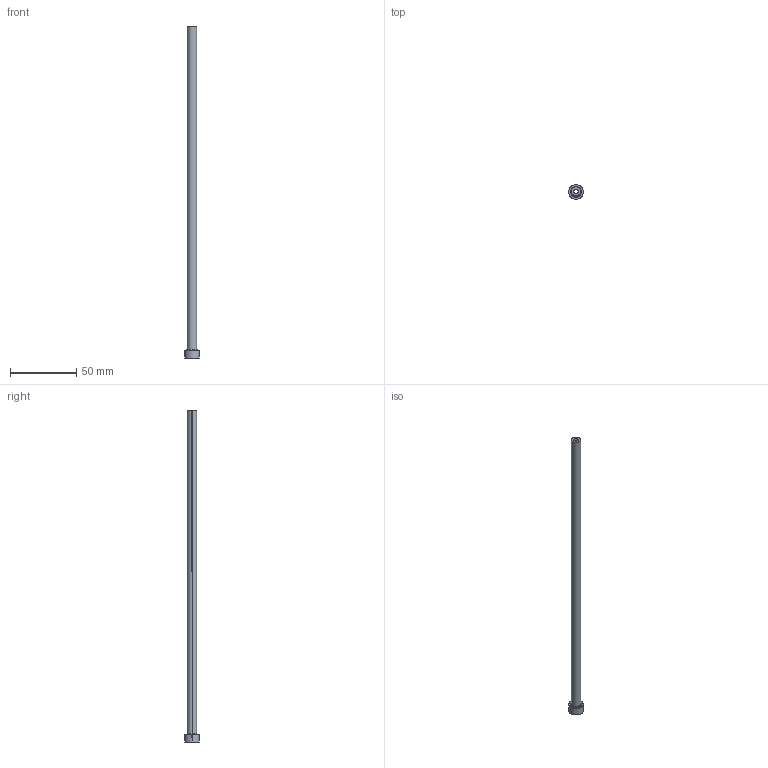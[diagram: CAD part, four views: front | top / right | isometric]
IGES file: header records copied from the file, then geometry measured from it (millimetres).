
Start section: SolidWorks IGES file using analytic representation for surfaces
Global section: file name: D:\Ref Drgs\JES Sleeve\25-45_250\JES-35-7-250\JES-35-7-250.IGS; native system: SolidWorks 2017; preprocessor: SolidWorks 2017; author: RK; date: 170623.161128; units: millimetre
Bounding box: 11 x 11 x 250 mm (x, y, z)
Surface area: 8718.1 mm2 (no closed solid volume)
Topology: 0 solids, 0 shells, 17 faces, 248 edges, 248 vertices
Faces by surface type: revolution 12, bspline 5
